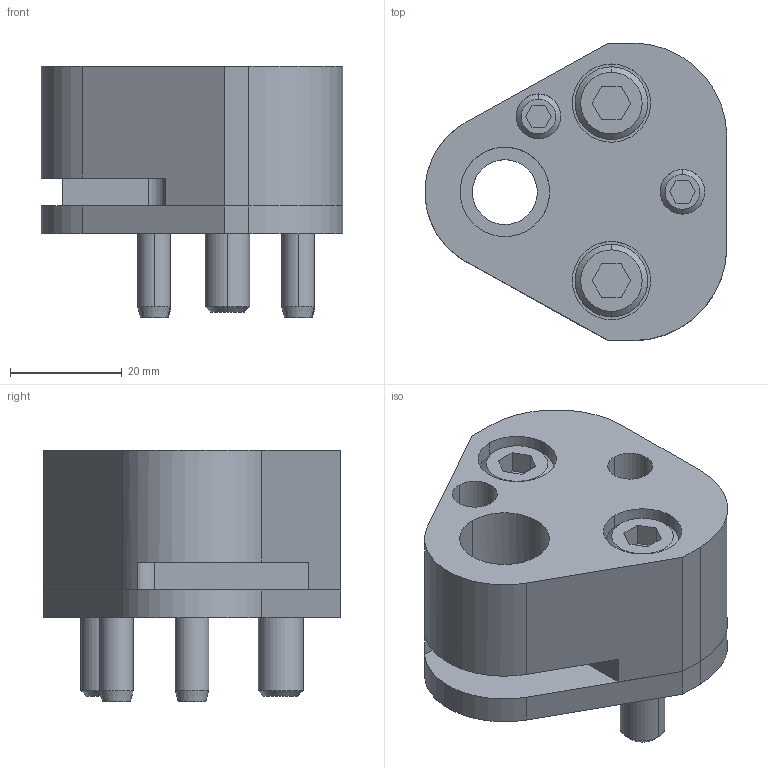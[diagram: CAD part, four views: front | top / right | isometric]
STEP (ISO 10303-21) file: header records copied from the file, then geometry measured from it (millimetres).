
FILE_DESCRIPTION(/* description */ (''),/* implementation_level */ '2;1');
FILE_NAME(/* name */ '3d_25crn-fd16_03146_r00.stp',/* time_stamp */ '2011-01-10T14:17:53+09:00',/* author */ ('MISUMI'),/* organization */ (''),/* preprocessor_version */ 'ST-DEVELOPER v11',/* originating_system */ 'UGS - NX 5.0',/* authorisation */ '');
FILE_SCHEMA (('CONFIG_CONTROL_DESIGN'));
Length unit declared in the file: millimetre
Products named in the file (1): 3d_25crn-fd16_03146_r00
Bounding box: 53.96 x 53.2 x 45 mm (x, y, z)
Volume: 56239.4 mm3; surface area: 21846.3 mm2
Topology: 8 solids, 8 shells, 156 faces, 358 edges, 231 vertices
Faces by surface type: plane 69, cylinder 61, cone 26
Entity records: 4585 total; most frequent: DIRECTION 815, CARTESIAN_POINT 805, ORIENTED_EDGE 716, EDGE_CURVE 358, AXIS2_PLACEMENT_3D 307, VERTEX_POINT 231, LINE 201, VECTOR 201
